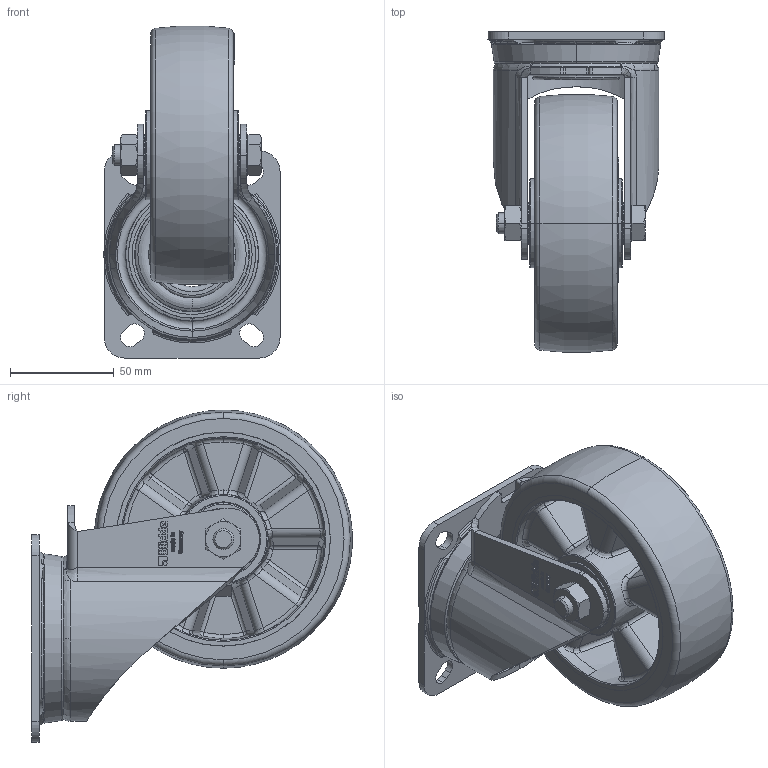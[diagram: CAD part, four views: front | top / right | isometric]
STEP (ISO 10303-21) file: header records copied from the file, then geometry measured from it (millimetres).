
FILE_DESCRIPTION (( 'STEP AP214' ), '1' );
FILE_NAME ('LK-ALTH_125K-1_265777-214.step', '2022-01-11T09:59:28', ( '' ), ( '' ), 'SwSTEP 2.0', 'SolidWorks 2018', '' );
FILE_SCHEMA (( 'AUTOMOTIVE_DESIGN' ));
Length unit declared in the file: millimetre
Products named in the file (5): ALTH_125_15K_G16_3D; GH-LK-125x45-01_15x45_G16_3D; ALTH_3D_G16_ALTH_125_15K_265710; LK-ALTH_125K-1_265777-214; GH-LK_125_GH-LK-125x45-01_15x45
Assembly tree (4 placements, depth 3):
  LK-ALTH_125K-1_265777-214
    GH-LK_125_GH-LK-125x45-01_15x45
      GH-LK-125x45-01_15x45_G16_3D
    ALTH_3D_G16_ALTH_125_15K_265710
      ALTH_125_15K_G16_3D
Bounding box: 85.06 x 154.74 x 160.36 mm (x, y, z)
Volume: 377722.4 mm3; surface area: 131020.6 mm2
Topology: 2 solids, 6 shells, 2163 faces, 5595 edges, 3580 vertices
Faces by surface type: bspline 874, plane 813, torus 185, cylinder 158, cone 95, sphere 38
Entity records: 89270 total; most frequent: CARTESIAN_POINT 37877, ORIENTED_EDGE 11194, DIRECTION 7290, EDGE_CURVE 5597, VERTEX_POINT 3582, VECTOR 2852, LINE 2852, EDGE_LOOP 2321
